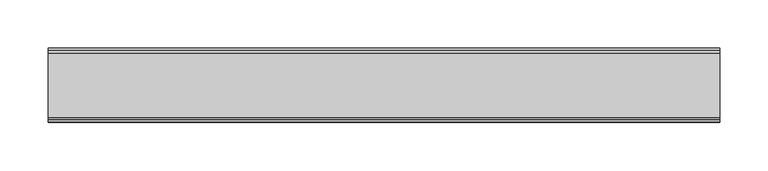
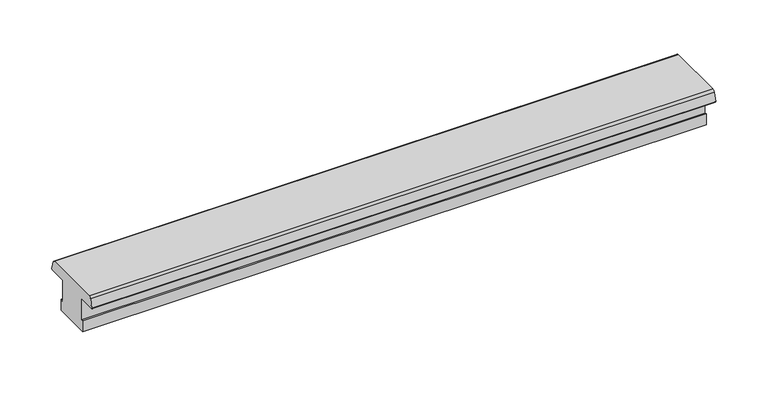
"""IFC4 building model written with IfcOpenShell, lengths in millimetres: proxy geometry, Weiku - Montante - Divisor 02.2.01.040 : Weiku - Montante - Divisor 02.2.01.040."""

from ifc_helpers import new_model, si_unit, point, frame, frame_2d, origin, place, context, project, spatial, polyline, circle_curve, trimmed, segment, composite_curve, outline, extrude, source, transform, mapped, element, save


def generic_models_cc601ab1(model_context):
    return source(origin(), model_context, "Body", "SweptSolid", [
        extrude(outline(composite_curve([segment(polyline([(-33.0007245, 50.0), (33.0007245, 50.0)]), True, "CONTINUOUS"), segment(trimmed(circle_curve(frame_2d((33.0007245, 47.0)), 3.0), [point((33.0007245, 50.0))], [point((35.898502, 47.7764571))], False, "CARTESIAN"), True, "CONTINUOUS"), segment(polyline([(35.898502, 47.7764571), (38.4496907, 38.2552914)]), True, "CONTINUOUS"), segment(trimmed(circle_curve(frame_2d((37.8701352, 38.1)), 0.6), [point((38.4496907, 38.2552914))], [point((37.8701352, 37.5))], False, "CARTESIAN"), True, "CONTINUOUS"), segment(polyline([(37.8701352, 37.5), (17.5004577, 37.5), (17.5004577, 12.168694), (20.5, 12.972419), (20.5, 0.0), (-20.5, 0.0), (-20.5, 12.972419), (-17.5004577, 12.168694), (-17.5004577, 37.5), (-37.8701352, 37.5)]), True, "CONTINUOUS"), segment(trimmed(circle_curve(frame_2d((-37.8701352, 38.1)), 0.6), [point((-37.8701352, 37.5))], [point((-38.4496907, 38.2552914))], False, "CARTESIAN"), True, "CONTINUOUS"), segment(polyline([(-38.4496907, 38.2552914), (-35.898502, 47.7764571)]), True, "CONTINUOUS"), segment(trimmed(circle_curve(frame_2d((-33.0007245, 47.0)), 3.0), [point((-35.898502, 47.7764571))], [point((-33.0007245, 50.0))], False, "CARTESIAN"), True, "CONTINUOUS")], self_intersect=False)), frame((-346.75, 0.0, 0.0), z_axis=(1.0, 0.0, 0.0), x_axis=(0.0, 1.0, 0.0)), (0.0, 0.0, 1.0), 693.5),
    ])


if __name__ == "__main__":
    model = new_model("IFC4")
    model_context = context("Model", 3, world=origin())
    ifc_project = project(units=[si_unit("LENGTHUNIT", "METRE", prefix="MILLI")], contexts=[model_context])
    site = spatial("IfcSite", under=ifc_project)
    building = spatial("IfcBuilding", under=site)
    placement = place(None, origin())
    generic_models_shape = generic_models_cc601ab1(model_context)
    element("IfcBuildingElementProxy", 1, Name="Weiku - Montante - Divisor 02.2.01.040 : Weiku - Montante - Divisor 02.2.01.040", ObjectType="Weiku - Montante - Divisor 02.2.01.040 : Weiku - Montante - Divisor 02.2.01.040", at=placement, inside=building, context=model_context, shape_type="MappedRepresentation", body=[
        mapped(generic_models_shape, transform((0.0, 0.0, 0.0), x_axis=(1.0, 0.0, 0.0), y_axis=(0.0, 1.0, 0.0), z_axis=(0.0, 0.0, 1.0))),
    ])
    save(model, "model.ifc")
